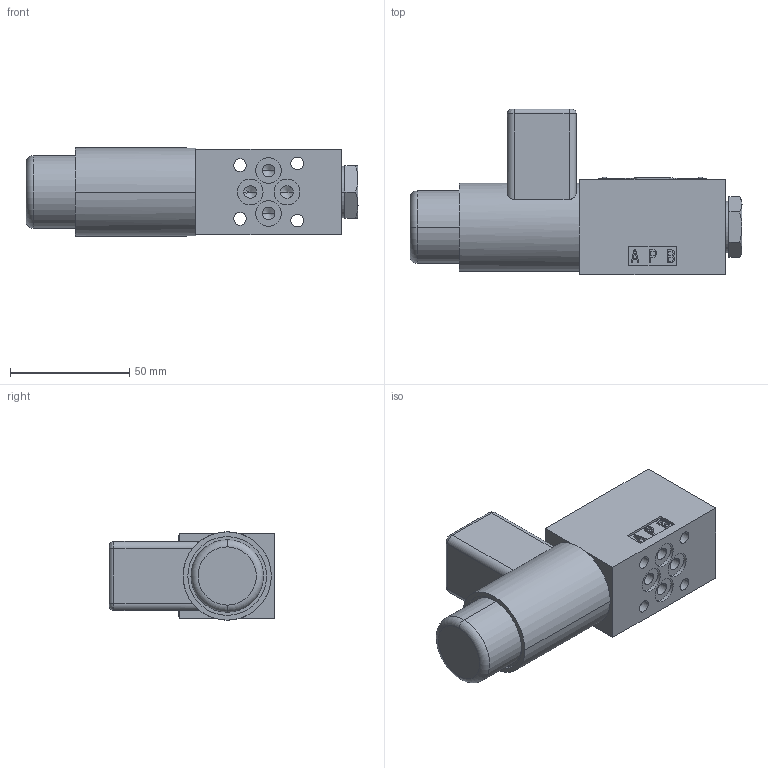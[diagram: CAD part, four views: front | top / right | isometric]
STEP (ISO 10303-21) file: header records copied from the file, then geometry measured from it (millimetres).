
FILE_DESCRIPTION((''),'2;1');
FILE_NAME('RPE3_042_A','2011-03-14T',('tvatras'),(''),'PRO/ENGINEER BY PARAMETRIC TECHNOLOGY CORPORATION, 2010180','PRO/ENGINEER BY PARAMETRIC TECHNOLOGY CORPORATION, 2010180','');
FILE_SCHEMA(('CONFIG_CONTROL_DESIGN'));
Length unit declared in the file: millimetre
Products named in the file (1): RPE3_042_A
Bounding box: 139.2 x 69.5 x 37 mm (x, y, z)
Volume: 180464.4 mm3; surface area: 28752.3 mm2
Topology: 1 solids, 3 shells, 376 faces, 1005 edges, 657 vertices
Faces by surface type: plane 286, cylinder 64, cone 16, bspline 4, sphere 4, torus 2
Entity records: 11704 total; most frequent: CARTESIAN_POINT 2234, ORIENTED_EDGE 1976, DIRECTION 1869, EDGE_CURVE 990, VECTOR 813, LINE 813, VERTEX_POINT 655, AXIS2_PLACEMENT_3D 528
